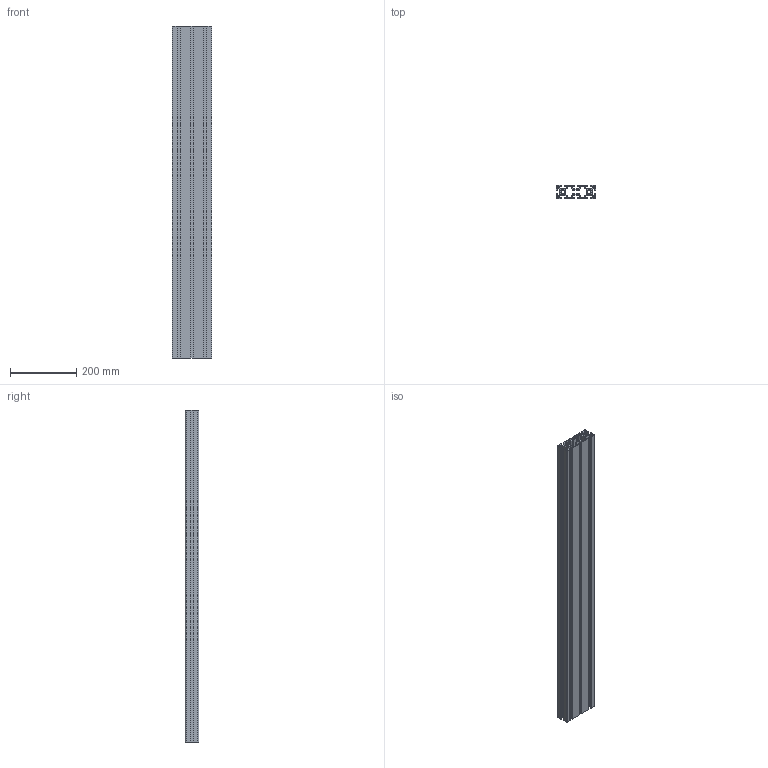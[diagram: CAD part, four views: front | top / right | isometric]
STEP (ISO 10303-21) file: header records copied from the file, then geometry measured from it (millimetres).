
FILE_DESCRIPTION(/* description */ ('PK40120'),/* implementation_level */ '2;1');
FILE_NAME(/* name */ 'PK40120_CATALOGO.stp',/* time_stamp */ '2024-06-10T10:06:25+02:00',/* author */ ('simone.marchiondo'),/* organization */ (''),/* preprocessor_version */ 'ST-DEVELOPER v20',/* originating_system */ 'Autodesk Inventor 2024',/* authorisation */ '');
FILE_SCHEMA (('AUTOMOTIVE_DESIGN { 1 0 10303 214 3 1 1 }'));
Length unit declared in the file: millimetre
Products named in the file (1): PK40120_CATALOGO
Bounding box: 120 x 40 x 1000 mm (x, y, z)
Volume: 1731134.7 mm3; surface area: 1022405.8 mm2
Topology: 1 solids, 1 shells, 254 faces, 1008 edges, 1005 vertices
Faces by surface type: plane 154, cylinder 100
Full cylindrical faces by diameter (mm): 5 x4
Entity records: 10118 total; most frequent: CARTESIAN_POINT 2112, DIRECTION 1666, ORIENTED_EDGE 1512, EDGE_CURVE 756, LINE 556, VECTOR 556, AXIS2_PLACEMENT_3D 555, VERTEX_POINT 504
